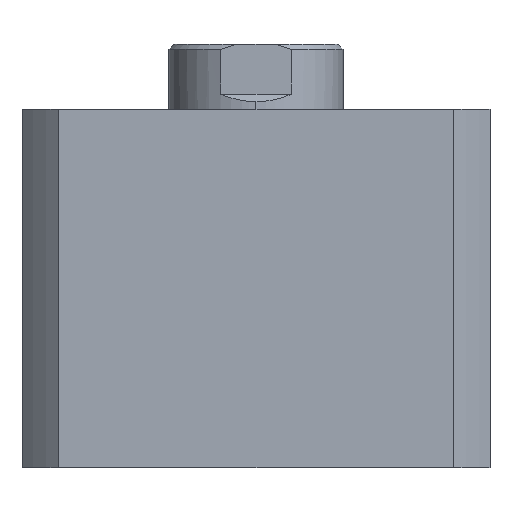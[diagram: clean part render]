
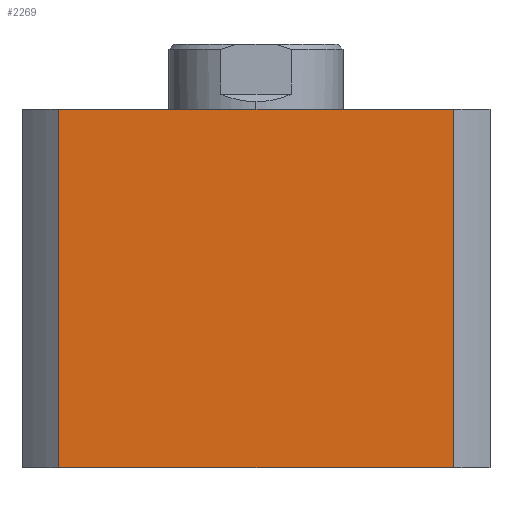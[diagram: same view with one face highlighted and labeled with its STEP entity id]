
A CAD part, left-side view. The second image highlights one B-rep face of the part: STEP entity #2269.
In plain terms, the highlighted planar face has unit normal (-1, 0, 0).
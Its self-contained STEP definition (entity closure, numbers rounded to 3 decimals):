
#17 = EDGE_CURVE ( 'NONE', #2127, #2106, #4822, .T. ) ;
#18 = EDGE_CURVE ( 'NONE', #2106, #2105, #4820, .T. ) ;
#19 = EDGE_CURVE ( 'NONE', #2126, #2105, #4825, .T. ) ;
#75 = CARTESIAN_POINT ( 'NONE',  ( -47., -39.664, 0. ) ) ;
#76 = CARTESIAN_POINT ( 'NONE',  ( -47., 39.664, 0. ) ) ;
#96 = CARTESIAN_POINT ( 'NONE',  ( -47., -39.664, 72. ) ) ;
#97 = CARTESIAN_POINT ( 'NONE',  ( -47., 39.664, 72. ) ) ;
#291 = AXIS2_PLACEMENT_3D ( 'NONE', #367, #375, #376 ) ;
#367 = CARTESIAN_POINT ( 'NONE',  ( -47., 0., 72. ) ) ;
#372 = PLANE ( 'NONE',  #291 ) ;
#375 = DIRECTION ( 'NONE',  ( 1., 0., 0. ) ) ;
#376 = DIRECTION ( 'NONE',  ( 0., 0., -1. ) ) ;
#1379 = DIRECTION ( 'NONE',  ( 0., -1., 0. ) ) ;
#1380 = CARTESIAN_POINT ( 'NONE',  ( -47., 0., 72. ) ) ;
#1529 = LINE ( 'NONE', #1380, #1531 ) ;
#1531 = VECTOR ( 'NONE', #1379, 1000. ) ;
#1872 = EDGE_LOOP ( 'NONE', ( #4602, #4603, #4604, #4605 ) ) ;
#2105 = VERTEX_POINT ( 'NONE', #75 ) ;
#2106 = VERTEX_POINT ( 'NONE', #76 ) ;
#2126 = VERTEX_POINT ( 'NONE', #96 ) ;
#2127 = VERTEX_POINT ( 'NONE', #97 ) ;
#2269 = ADVANCED_FACE ( 'NONE', ( #2405 ), #372, .F. ) ;
#2405 = FACE_OUTER_BOUND ( 'NONE', #1872, .T. ) ;
#2830 = DIRECTION ( 'NONE',  ( 0., 0., -1. ) ) ;
#2833 = CARTESIAN_POINT ( 'NONE',  ( -47., 39.664, 72. ) ) ;
#2836 = CARTESIAN_POINT ( 'NONE',  ( -47., 0., 0. ) ) ;
#2841 = DIRECTION ( 'NONE',  ( 0., -1., 0. ) ) ;
#2842 = CARTESIAN_POINT ( 'NONE',  ( -47., -39.664, 72. ) ) ;
#2844 = DIRECTION ( 'NONE',  ( 0., 0., -1. ) ) ;
#4602 = ORIENTED_EDGE ( 'NONE', *, *, #18, .T. ) ;
#4603 = ORIENTED_EDGE ( 'NONE', *, *, #19, .F. ) ;
#4604 = ORIENTED_EDGE ( 'NONE', *, *, #5072, .F. ) ;
#4605 = ORIENTED_EDGE ( 'NONE', *, *, #17, .T. ) ;
#4820 = LINE ( 'NONE', #2836, #4826 ) ;
#4822 = LINE ( 'NONE', #2833, #4824 ) ;
#4824 = VECTOR ( 'NONE', #2830, 1000. ) ;
#4825 = LINE ( 'NONE', #2842, #4828 ) ;
#4826 = VECTOR ( 'NONE', #2841, 1000. ) ;
#4828 = VECTOR ( 'NONE', #2844, 1000. ) ;
#5072 = EDGE_CURVE ( 'NONE', #2127, #2126, #1529, .T. ) ;
